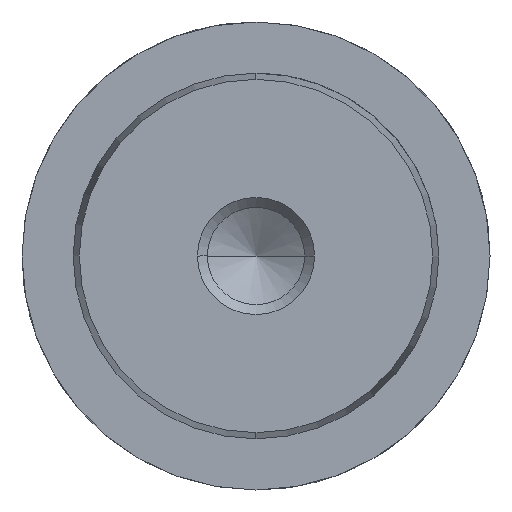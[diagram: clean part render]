
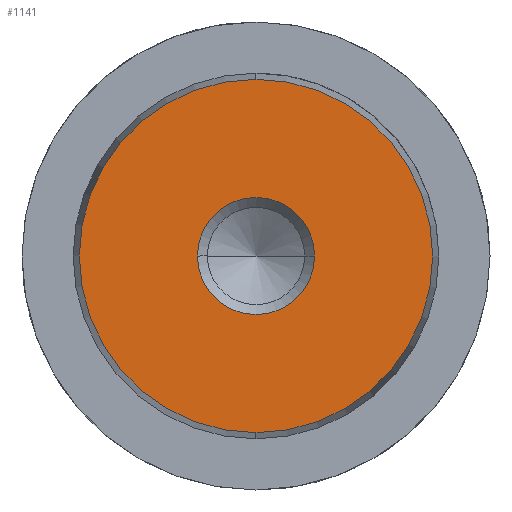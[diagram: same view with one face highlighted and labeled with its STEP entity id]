
A CAD part, left-side view. The second image highlights one B-rep face of the part: STEP entity #1141.
In plain terms, the highlighted planar face has unit normal (-1, 0, 0).
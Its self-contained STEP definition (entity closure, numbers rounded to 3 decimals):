
#1055=CARTESIAN_POINT('Vertex',(0.,0.,-12.078)) ;
#1058=CARTESIAN_POINT('Axis2P3D Location',(0.,0.,0.)) ;
#1062=CARTESIAN_POINT('Vertex',(0.,12.078,0.)) ;
#1065=CARTESIAN_POINT('Axis2P3D Location',(0.,0.,0.)) ;
#1069=CARTESIAN_POINT('Vertex',(0.,0.,12.078)) ;
#1091=CARTESIAN_POINT('Axis2P3D Location',(0.,0.,0.)) ;
#1095=CARTESIAN_POINT('Vertex',(0.,-12.078,0.)) ;
#1098=CARTESIAN_POINT('Axis2P3D Location',(0.,0.,0.)) ;
#1112=CARTESIAN_POINT('Axis2P3D Location',(0.,0.,0.)) ;
#1123=CARTESIAN_POINT('Axis2P3D Location',(0.,0.,0.)) ;
#1127=CARTESIAN_POINT('Vertex',(0.,4.,0.)) ;
#1129=CARTESIAN_POINT('Vertex',(0.,-4.,0.)) ;
#1132=CARTESIAN_POINT('Axis2P3D Location',(0.,0.,0.)) ;
#1059=DIRECTION('Axis2P3D Direction',(1.,-0.,0.)) ;
#1066=DIRECTION('Axis2P3D Direction',(1.,-0.,0.)) ;
#1092=DIRECTION('Axis2P3D Direction',(1.,0.,-0.)) ;
#1099=DIRECTION('Axis2P3D Direction',(1.,0.,-0.)) ;
#1113=DIRECTION('Axis2P3D Direction',(1.,0.,-0.)) ;
#1114=DIRECTION('Axis2P3D XDirection',(-0.,0.,-1.)) ;
#1124=DIRECTION('Axis2P3D Direction',(1.,0.,-0.)) ;
#1133=DIRECTION('Axis2P3D Direction',(1.,0.,-0.)) ;
#1060=AXIS2_PLACEMENT_3D('Circle Axis2P3D',#1058,#1059,$) ;
#1067=AXIS2_PLACEMENT_3D('Circle Axis2P3D',#1065,#1066,$) ;
#1093=AXIS2_PLACEMENT_3D('Circle Axis2P3D',#1091,#1092,$) ;
#1100=AXIS2_PLACEMENT_3D('Circle Axis2P3D',#1098,#1099,$) ;
#1115=AXIS2_PLACEMENT_3D('Plane Axis2P3D',#1112,#1113,#1114) ;
#1125=AXIS2_PLACEMENT_3D('Circle Axis2P3D',#1123,#1124,$) ;
#1134=AXIS2_PLACEMENT_3D('Circle Axis2P3D',#1132,#1133,$) ;
#1118=ORIENTED_EDGE('',*,*,#1064,.F.) ;
#1119=ORIENTED_EDGE('',*,*,#1102,.F.) ;
#1120=ORIENTED_EDGE('',*,*,#1097,.F.) ;
#1121=ORIENTED_EDGE('',*,*,#1071,.F.) ;
#1138=ORIENTED_EDGE('',*,*,#1131,.T.) ;
#1139=ORIENTED_EDGE('',*,*,#1136,.T.) ;
#1140=FACE_BOUND('',#1137,.T.) ;
#1141=ADVANCED_FACE('719-25x125',(#1122,#1140),#1116,.F.) ;
#1061=CIRCLE('generated circle',#1060,12.078) ;
#1068=CIRCLE('generated circle',#1067,12.078) ;
#1094=CIRCLE('generated circle',#1093,12.078) ;
#1101=CIRCLE('generated circle',#1100,12.078) ;
#1126=CIRCLE('generated circle',#1125,4.) ;
#1135=CIRCLE('generated circle',#1134,4.) ;
#1064=EDGE_CURVE('',#1056,#1063,#1061,.T.) ;
#1071=EDGE_CURVE('',#1063,#1070,#1068,.T.) ;
#1097=EDGE_CURVE('',#1070,#1096,#1094,.T.) ;
#1102=EDGE_CURVE('',#1096,#1056,#1101,.T.) ;
#1131=EDGE_CURVE('',#1128,#1130,#1126,.T.) ;
#1136=EDGE_CURVE('',#1130,#1128,#1135,.T.) ;
#1117=EDGE_LOOP('',(#1118,#1119,#1120,#1121)) ;
#1137=EDGE_LOOP('',(#1138,#1139)) ;
#1122=FACE_OUTER_BOUND('',#1117,.T.) ;
#1116=PLANE('Plane',#1115) ;
#1056=VERTEX_POINT('',#1055) ;
#1063=VERTEX_POINT('',#1062) ;
#1070=VERTEX_POINT('',#1069) ;
#1096=VERTEX_POINT('',#1095) ;
#1128=VERTEX_POINT('',#1127) ;
#1130=VERTEX_POINT('',#1129) ;
